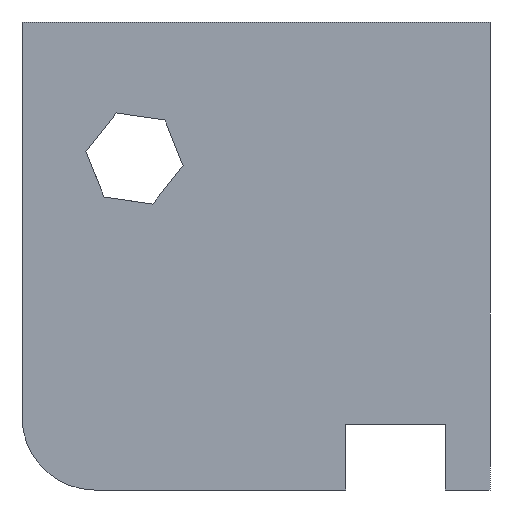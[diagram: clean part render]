
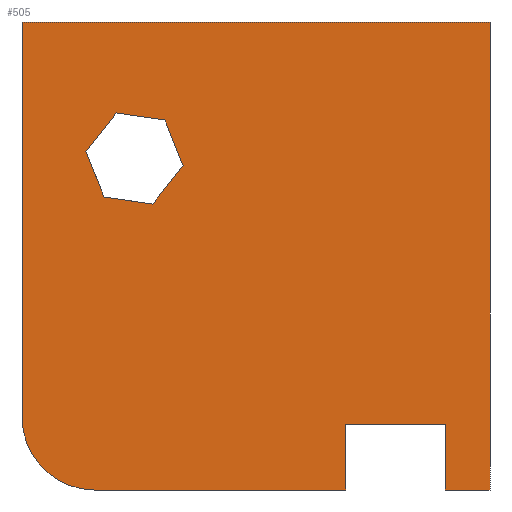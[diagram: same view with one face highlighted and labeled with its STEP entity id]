
A CAD part, left-side view. The second image highlights one B-rep face of the part: STEP entity #505.
In plain terms, the highlighted planar face has unit normal (-1, 0, 0).
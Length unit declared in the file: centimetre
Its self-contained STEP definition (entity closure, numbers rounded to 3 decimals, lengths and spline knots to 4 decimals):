
#8 = EDGE_CURVE ( 'NONE', #344, #251, #898, .T. ) ;
#25 = ORIENTED_EDGE ( 'NONE', *, *, #1018, .F. ) ;
#26 = ORIENTED_EDGE ( 'NONE', *, *, #777, .T. ) ;
#31 = VECTOR ( 'NONE', #1247, 100. ) ;
#49 = VECTOR ( 'NONE', #1573, 100. ) ;
#76 = VECTOR ( 'NONE', #113, 100. ) ;
#86 = CARTESIAN_POINT ( 'NONE',  ( 0., 95.4783, 140.6767 ) ) ;
#92 = LINE ( 'NONE', #1563, #1865 ) ;
#113 = DIRECTION ( 'NONE',  ( 0., -1., 0. ) ) ;
#185 = EDGE_CURVE ( 'NONE', #1624, #1311, #299, .T. ) ;
#223 = CARTESIAN_POINT ( 'NONE',  ( 0., 824.5844, 625.9113 ) ) ;
#228 = CARTESIAN_POINT ( 'NONE',  ( 0., 798.6662, 805.6393 ) ) ;
#229 = VERTEX_POINT ( 'NONE', #1384 ) ;
#251 = VERTEX_POINT ( 'NONE', #819 ) ;
#259 = CARTESIAN_POINT ( 'NONE',  ( 0., 95.4783, 0. ) ) ;
#262 = CARTESIAN_POINT ( 'NONE',  ( 0., 308.1058, 0. ) ) ;
#293 = CARTESIAN_POINT ( 'NONE',  ( 0., 1000., 1000. ) ) ;
#295 = LINE ( 'NONE', #1243, #1417 ) ;
#299 = LINE ( 'NONE', #262, #31 ) ;
#332 = CARTESIAN_POINT ( 'NONE',  ( 0., 863.5083, 723.2573 ) ) ;
#344 = VERTEX_POINT ( 'NONE', #471 ) ;
#346 = LINE ( 'NONE', #992, #1826 ) ;
#360 = VERTEX_POINT ( 'NONE', #223 ) ;
#365 = CARTESIAN_POINT ( 'NONE',  ( 0., 0., 0. ) ) ;
#370 = ORIENTED_EDGE ( 'NONE', *, *, #1176, .F. ) ;
#394 = CARTESIAN_POINT ( 'NONE',  ( 0., 844.4945, 155.5055 ) ) ;
#405 = VECTOR ( 'NONE', #1736, 100. ) ;
#411 = FACE_BOUND ( 'NONE', #942, .T. ) ;
#429 = FACE_OUTER_BOUND ( 'NONE', #932, .T. ) ;
#445 = DIRECTION ( 'NONE',  ( 0., 0., 1. ) ) ;
#465 = VECTOR ( 'NONE', #1817, 100. ) ;
#471 = CARTESIAN_POINT ( 'NONE',  ( 0., 1000., 155.5055 ) ) ;
#479 = EDGE_CURVE ( 'NONE', #360, #1907, #522, .T. ) ;
#505 = ADVANCED_FACE ( 'NONE', ( #411, #429 ), #1088, .F. ) ;
#515 = VECTOR ( 'NONE', #1413, 100. ) ;
#522 = LINE ( 'NONE', #1172, #465 ) ;
#571 = LINE ( 'NONE', #1221, #748 ) ;
#576 = EDGE_CURVE ( 'NONE', #229, #1821, #596, .T. ) ;
#579 = ORIENTED_EDGE ( 'NONE', *, *, #582, .F. ) ;
#582 = EDGE_CURVE ( 'NONE', #1964, #1903, #295, .T. ) ;
#595 = EDGE_CURVE ( 'NONE', #1821, #1624, #1412, .T. ) ;
#596 = LINE ( 'NONE', #259, #1283 ) ;
#620 = LINE ( 'NONE', #293, #49 ) ;
#637 = VECTOR ( 'NONE', #892, 100. ) ;
#664 = ORIENTED_EDGE ( 'NONE', *, *, #8, .T. ) ;
#671 = CARTESIAN_POINT ( 'NONE',  ( 0., 694.9002, 790.6754 ) ) ;
#686 = LINE ( 'NONE', #228, #783 ) ;
#748 = VECTOR ( 'NONE', #1867, 100. ) ;
#772 = ORIENTED_EDGE ( 'NONE', *, *, #576, .F. ) ;
#774 = CARTESIAN_POINT ( 'NONE',  ( 0., 798.6662, 805.6393 ) ) ;
#777 = EDGE_CURVE ( 'NONE', #251, #1311, #1318, .T. ) ;
#783 = VECTOR ( 'NONE', #865, 100. ) ;
#819 = CARTESIAN_POINT ( 'NONE',  ( 0., 844.4945, 0. ) ) ;
#833 = VERTEX_POINT ( 'NONE', #1189 ) ;
#865 = DIRECTION ( 'NONE',  ( 0., 0.618, -0.786 ) ) ;
#888 = EDGE_CURVE ( 'NONE', #1903, #1180, #346, .T. ) ;
#892 = DIRECTION ( 'NONE',  ( 0., 1., 0. ) ) ;
#893 = CARTESIAN_POINT ( 'NONE',  ( 0., 95.4783, 140.6767 ) ) ;
#898 = CIRCLE ( 'NONE', #1175, 155.5055 ) ;
#904 = ORIENTED_EDGE ( 'NONE', *, *, #991, .F. ) ;
#913 = CARTESIAN_POINT ( 'NONE',  ( 0., 1000., 0. ) ) ;
#932 = EDGE_LOOP ( 'NONE', ( #26, #1377, #1218, #772, #1655, #25, #370, #1766, #664 ) ) ;
#942 = EDGE_LOOP ( 'NONE', ( #1527, #1020, #579, #904, #1466, #1235 ) ) ;
#959 = EDGE_CURVE ( 'NONE', #229, #1658, #1086, .T. ) ;
#963 = CARTESIAN_POINT ( 'NONE',  ( 0., 655.9763, 693.3295 ) ) ;
#991 = EDGE_CURVE ( 'NONE', #1907, #1964, #92, .T. ) ;
#992 = CARTESIAN_POINT ( 'NONE',  ( 0., 694.9002, 790.6754 ) ) ;
#1018 = EDGE_CURVE ( 'NONE', #1169, #1658, #571, .T. ) ;
#1020 = ORIENTED_EDGE ( 'NONE', *, *, #888, .F. ) ;
#1029 = CARTESIAN_POINT ( 'NONE',  ( 0., 308.1058, 140.6767 ) ) ;
#1030 = DIRECTION ( 'NONE',  ( 0., 0., -1. ) ) ;
#1064 = VERTEX_POINT ( 'NONE', #1747 ) ;
#1069 = LINE ( 'NONE', #1699, #515 ) ;
#1086 = LINE ( 'NONE', #913, #76 ) ;
#1088 = PLANE ( 'NONE',  #1448 ) ;
#1142 = CARTESIAN_POINT ( 'NONE',  ( 0., 720.8184, 610.9474 ) ) ;
#1160 = DIRECTION ( 'NONE',  ( 0., -1., 0. ) ) ;
#1169 = VERTEX_POINT ( 'NONE', #1769 ) ;
#1171 = EDGE_CURVE ( 'NONE', #833, #360, #1778, .T. ) ;
#1172 = CARTESIAN_POINT ( 'NONE',  ( 0., 824.5844, 625.9113 ) ) ;
#1175 = AXIS2_PLACEMENT_3D ( 'NONE', #394, #1690, #1030 ) ;
#1176 = EDGE_CURVE ( 'NONE', #1064, #1169, #620, .T. ) ;
#1180 = VERTEX_POINT ( 'NONE', #774 ) ;
#1189 = CARTESIAN_POINT ( 'NONE',  ( 0., 863.5083, 723.2573 ) ) ;
#1218 = ORIENTED_EDGE ( 'NONE', *, *, #595, .F. ) ;
#1221 = CARTESIAN_POINT ( 'NONE',  ( 0., 0., 1000. ) ) ;
#1232 = EDGE_CURVE ( 'NONE', #1180, #833, #686, .T. ) ;
#1235 = ORIENTED_EDGE ( 'NONE', *, *, #1171, .F. ) ;
#1243 = CARTESIAN_POINT ( 'NONE',  ( 0., 655.9763, 693.3295 ) ) ;
#1247 = DIRECTION ( 'NONE',  ( 0., 0., -1. ) ) ;
#1283 = VECTOR ( 'NONE', #445, 100. ) ;
#1311 = VERTEX_POINT ( 'NONE', #1834 ) ;
#1318 = LINE ( 'NONE', #1328, #1551 ) ;
#1328 = CARTESIAN_POINT ( 'NONE',  ( 0., 1000., 0. ) ) ;
#1373 = DIRECTION ( 'NONE',  ( 0., 0., -1. ) ) ;
#1377 = ORIENTED_EDGE ( 'NONE', *, *, #185, .F. ) ;
#1380 = DIRECTION ( 'NONE',  ( 1., 0., 0. ) ) ;
#1384 = CARTESIAN_POINT ( 'NONE',  ( 0., 95.4783, 0. ) ) ;
#1412 = LINE ( 'NONE', #86, #637 ) ;
#1413 = DIRECTION ( 'NONE',  ( 0., 0., -1. ) ) ;
#1417 = VECTOR ( 'NONE', #1887, 100. ) ;
#1448 = AXIS2_PLACEMENT_3D ( 'NONE', #1549, #1380, #1373 ) ;
#1466 = ORIENTED_EDGE ( 'NONE', *, *, #479, .F. ) ;
#1479 = DIRECTION ( 'NONE',  ( 0., 0.99, 0.143 ) ) ;
#1527 = ORIENTED_EDGE ( 'NONE', *, *, #1232, .F. ) ;
#1549 = CARTESIAN_POINT ( 'NONE',  ( 0., 1000., 1000. ) ) ;
#1551 = VECTOR ( 'NONE', #1160, 100. ) ;
#1563 = CARTESIAN_POINT ( 'NONE',  ( 0., 720.8184, 610.9474 ) ) ;
#1573 = DIRECTION ( 'NONE',  ( 0., -1., 0. ) ) ;
#1624 = VERTEX_POINT ( 'NONE', #1029 ) ;
#1655 = ORIENTED_EDGE ( 'NONE', *, *, #959, .T. ) ;
#1658 = VERTEX_POINT ( 'NONE', #365 ) ;
#1685 = DIRECTION ( 'NONE',  ( 0., -0.618, 0.786 ) ) ;
#1690 = DIRECTION ( 'NONE',  ( -1., 0., 0. ) ) ;
#1699 = CARTESIAN_POINT ( 'NONE',  ( 0., 1000., 1000. ) ) ;
#1736 = DIRECTION ( 'NONE',  ( 0., -0.371, -0.929 ) ) ;
#1747 = CARTESIAN_POINT ( 'NONE',  ( 0., 1000., 1000. ) ) ;
#1766 = ORIENTED_EDGE ( 'NONE', *, *, #1823, .T. ) ;
#1769 = CARTESIAN_POINT ( 'NONE',  ( 0., 0., 1000. ) ) ;
#1778 = LINE ( 'NONE', #332, #405 ) ;
#1817 = DIRECTION ( 'NONE',  ( 0., -0.99, -0.143 ) ) ;
#1821 = VERTEX_POINT ( 'NONE', #893 ) ;
#1823 = EDGE_CURVE ( 'NONE', #1064, #344, #1069, .T. ) ;
#1826 = VECTOR ( 'NONE', #1479, 100. ) ;
#1834 = CARTESIAN_POINT ( 'NONE',  ( 0., 308.1058, 0. ) ) ;
#1865 = VECTOR ( 'NONE', #1685, 100. ) ;
#1867 = DIRECTION ( 'NONE',  ( 0., 0., -1. ) ) ;
#1887 = DIRECTION ( 'NONE',  ( 0., 0.371, 0.929 ) ) ;
#1903 = VERTEX_POINT ( 'NONE', #671 ) ;
#1907 = VERTEX_POINT ( 'NONE', #1142 ) ;
#1964 = VERTEX_POINT ( 'NONE', #963 ) ;
